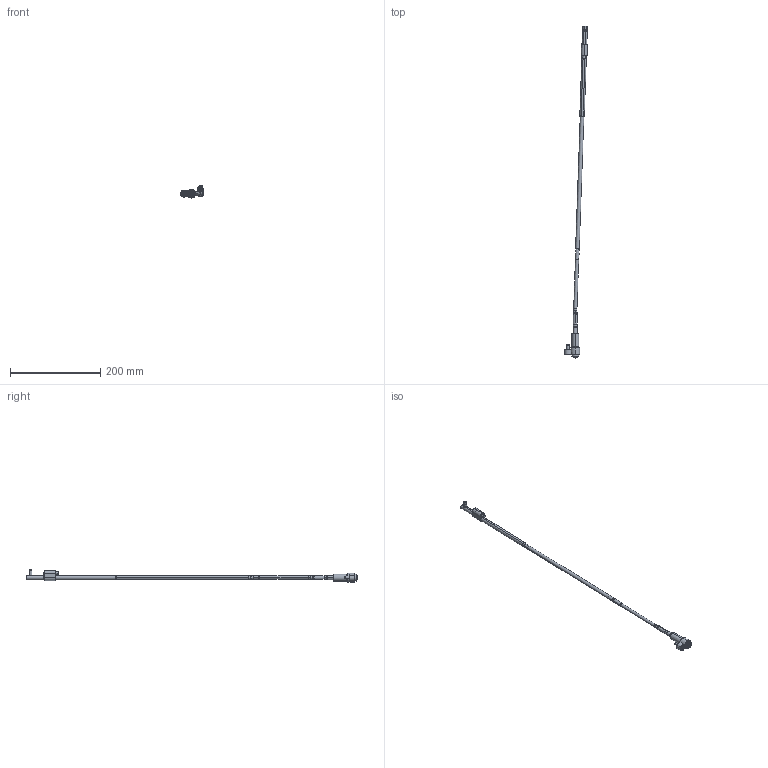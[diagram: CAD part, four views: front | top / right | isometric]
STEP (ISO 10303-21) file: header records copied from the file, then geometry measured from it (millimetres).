
FILE_DESCRIPTION (( 'STEP AP214' ), '1' );
FILE_NAME ('WL080100L-EJE 2°.STEP', '2021-03-19T15:24:30', ( '' ), ( '' ), 'SwSTEP 2.0', 'SolidWorks 2019', '' );
FILE_SCHEMA (( 'AUTOMOTIVE_DESIGN' ));
Length unit declared in the file: millimetre
Products named in the file (17): WL080100-B_WL0800FF; WL080100-C; 1DIN912545_DIN 912 M5 x 50 --- 50C; WL080100L-EJE 2°; Web-WP08-1; Web-WL08XX-A7_ON-WL080100-2; Web-WL08-F00.SLDPRT; Web-WL08-A3; WL080100-E; WL080100-D; Web-WL08-F01; Web-WL08-A1; 3IMAN4X2-150_con sello; 1DIN912616_DIN 912 M6 x 16 --- 16C; Web-WL08-A2; WL080100-B1_WL0800FF-1; 9DR2206-TOR
Assembly tree (16 placements, depth 3):
  WL080100L-EJE 2°
    Web-WP08-1
    Web-WL08XX-A7_ON-WL080100-2
    Web-WL08-A3
    Web-WL08-A2
    Web-WL08-A1
    WL080100-D
    WL080100-C
    WL080100-B_WL0800FF
      WL080100-B1_WL0800FF-1
      3IMAN4X2-150_con sello
    WL080100-E
    9DR2206-TOR
    Web-WL08-F00.SLDPRT
      Web-WL08-F01
      1DIN912545_DIN 912 M5 x 50 --- 50C
      1DIN912616_DIN 912 M6 x 16 --- 16C
Bounding box: 50.95 x 736.78 x 26.9 mm (x, y, z)
Volume: 57313.6 mm3; surface area: 33636.1 mm2
Topology: 15 solids, 15 shells, 424 faces, 888 edges, 516 vertices
Faces by surface type: plane 132, cylinder 128, cone 116, torus 48
Entity records: 13492 total; most frequent: DIRECTION 2218, CARTESIAN_POINT 2045, ORIENTED_EDGE 1756, AXIS2_PLACEMENT_3D 921, EDGE_CURVE 878, VERTEX_POINT 516, CIRCLE 476, EDGE_LOOP 468
